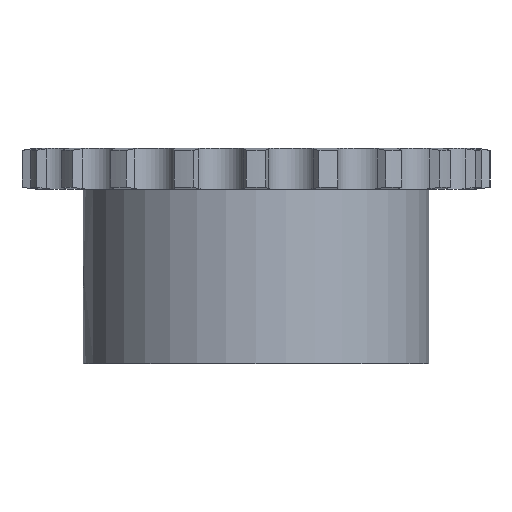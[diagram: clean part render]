
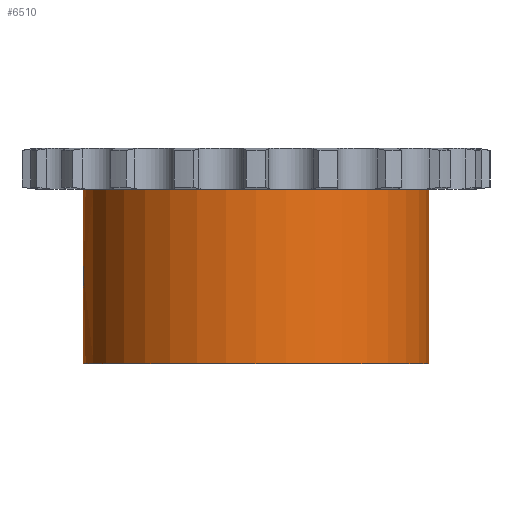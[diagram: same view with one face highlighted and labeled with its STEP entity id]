
A CAD part, front view. The second image highlights one B-rep face of the part: STEP entity #6510.
In plain terms, the highlighted cylindrical face has radius 22.5 mm (diameter 45 mm), a partial arc.
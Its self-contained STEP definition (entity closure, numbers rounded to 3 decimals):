
#1239=CARTESIAN_POINT('',(0.,0.,-2.65));
#1240=DIRECTION('',(0.,0.,1.));
#1241=DIRECTION('',(-1.,0.,0.));
#1242=AXIS2_PLACEMENT_3D('',#1239,#1240,#1241);
#3242=CARTESIAN_POINT('',(-22.5,0.,
-12.));
#3263=DIRECTION('',(0.,0.,1.));
#3264=VECTOR('',#3263,22.7);
#3265=CARTESIAN_POINT('',(22.5,0.,-25.35));
#3266=LINE('',#3265,#3264);
#3376=CARTESIAN_POINT('',(-22.5,0.,
-12.));
#3377=CARTESIAN_POINT('',(-22.5,-0.119,
-12.));
#3378=CARTESIAN_POINT('',(-22.498,-0.355,
-12.02));
#3379=CARTESIAN_POINT('',(-22.49,-0.705,
-12.113));
#3380=CARTESIAN_POINT('',(-22.477,-1.029,
-12.264));
#3381=CARTESIAN_POINT('',(-22.462,-1.32,
-12.466));
#3382=CARTESIAN_POINT('',(-22.445,-1.572,
-12.717));
#3383=CARTESIAN_POINT('',(-22.43,-1.777,
-13.009));
#3384=CARTESIAN_POINT('',(-22.418,-1.925,
-13.33));
#3385=CARTESIAN_POINT('',(-22.41,-2.013,
-13.668));
#3386=CARTESIAN_POINT('',(-22.408,-2.032,
-13.889));
#3387=CARTESIAN_POINT('',(-22.408,-2.032,
-14.));
#3392=DIRECTION('',(0.,0.,1.));
#3393=VECTOR('',#3392,9.35);
#3394=CARTESIAN_POINT('',(-22.5,0.,
-12.));
#3395=LINE('',#3394,#3393);
#3399=DIRECTION('',(0.,0.,1.));
#3400=VECTOR('',#3399,9.35);
#3401=CARTESIAN_POINT('',(-22.5,0.,-25.35));
#3402=LINE('',#3401,#3400);
#3406=CARTESIAN_POINT('',(-22.408,-2.032,
-14.));
#3407=CARTESIAN_POINT('',(-22.408,-2.032,
-14.111));
#3408=CARTESIAN_POINT('',(-22.41,-2.013,
-14.331));
#3409=CARTESIAN_POINT('',(-22.418,-1.926,
-14.668));
#3410=CARTESIAN_POINT('',(-22.43,-1.778,
-14.99));
#3411=CARTESIAN_POINT('',(-22.445,-1.573,
-15.282));
#3412=CARTESIAN_POINT('',(-22.462,-1.32,
-15.534));
#3413=CARTESIAN_POINT('',(-22.477,-1.029,
-15.736));
#3414=CARTESIAN_POINT('',(-22.49,-0.705,
-15.887));
#3415=CARTESIAN_POINT('',(-22.498,-0.355,
-15.98));
#3416=CARTESIAN_POINT('',(-22.5,-0.12,
-16.));
#3417=CARTESIAN_POINT('',(-22.5,0.,
-16.));
#3430=CARTESIAN_POINT('',(0.,0.,-25.35));
#3431=DIRECTION('',(0.,0.,-1.));
#3432=DIRECTION('',(1.,0.,0.));
#3433=AXIS2_PLACEMENT_3D('',#3430,#3431,#3432);
#3803=CARTESIAN_POINT('',(-22.5,0.,-25.35));
#3804=CARTESIAN_POINT('',(22.5,0.,-25.35));
#3805=VERTEX_POINT('',#3803);
#3806=VERTEX_POINT('',#3804);
#3807=CARTESIAN_POINT('',(22.5,0.,-2.65));
#3808=VERTEX_POINT('',#3807);
#3809=CARTESIAN_POINT('',(-22.5,0.,-2.65));
#3810=VERTEX_POINT('',#3809);
#4018=VERTEX_POINT('',#3242);
#4021=VERTEX_POINT('',#3387);
#4023=VERTEX_POINT('',#3417);
#6494=CARTESIAN_POINT('',(0.,0.,2.65));
#6495=DIRECTION('',(0.,0.,1.));
#6496=DIRECTION('',(1.,0.,0.));
#6497=AXIS2_PLACEMENT_3D('',#6494,#6495,#6496);
#6498=CYLINDRICAL_SURFACE('',#6497,22.5);
#6499=ORIENTED_EDGE('',*,*,#6484,.F.);
#6500=ORIENTED_EDGE('',*,*,#6147,.T.);
#6501=ORIENTED_EDGE('',*,*,#5370,.T.);
#6502=ORIENTED_EDGE('',*,*,#6144,.F.);
#6504=ORIENTED_EDGE('',*,*,#6503,.T.);
#6505=ORIENTED_EDGE('',*,*,#6140,.T.);
#6507=ORIENTED_EDGE('',*,*,#6506,.F.);
#6508=EDGE_LOOP('',(#6499,#6500,#6501,#6502,#6504,#6505,#6507));
#6509=FACE_OUTER_BOUND('',#6508,.F.);
#6510=ADVANCED_FACE('',(#6509),#6498,.T.);
#1243=CIRCLE('',#1242,22.5);
#3388=B_SPLINE_CURVE_WITH_KNOTS('',3,(#3376,#3377,#3378,#3379,#3380,#3381,#3382,
#3383,#3384,#3385,#3386,#3387),.UNSPECIFIED.,.F.,.F.,(4,1,1,1,1,1,1,1,1,4),
(0.,0.111,0.222,0.333,0.444,
0.556,0.667,0.778,0.889,1.),
.UNSPECIFIED.);
#3418=B_SPLINE_CURVE_WITH_KNOTS('',3,(#3406,#3407,#3408,#3409,#3410,#3411,#3412,
#3413,#3414,#3415,#3416,#3417),.UNSPECIFIED.,.F.,.F.,(4,1,1,1,1,1,1,1,1,4),
(0.,0.111,0.222,0.333,0.444,
0.556,0.667,0.778,0.889,1.),
.UNSPECIFIED.);
#3434=CIRCLE('',#3433,22.5);
#5370=EDGE_CURVE('',#3810,#3808,#1243,.T.);
#6140=EDGE_CURVE('',#3805,#4023,#3402,.T.);
#6144=EDGE_CURVE('',#3806,#3808,#3266,.T.);
#6147=EDGE_CURVE('',#4018,#3810,#3395,.T.);
#6484=EDGE_CURVE('',#4018,#4021,#3388,.T.);
#6503=EDGE_CURVE('',#3806,#3805,#3434,.T.);
#6506=EDGE_CURVE('',#4021,#4023,#3418,.T.);
